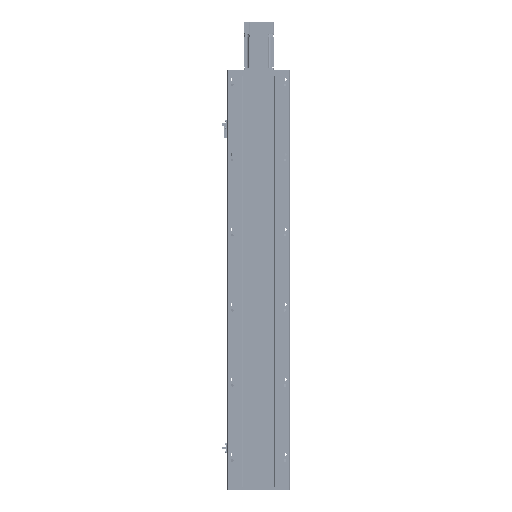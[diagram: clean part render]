
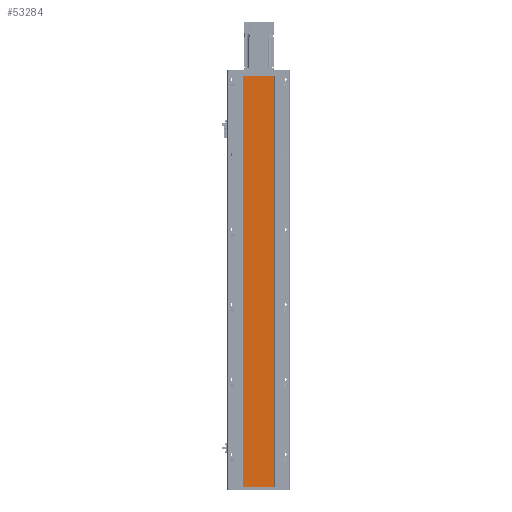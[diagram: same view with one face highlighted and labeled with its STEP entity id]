
A CAD part, front view. The second image highlights one B-rep face of the part: STEP entity #53284.
In plain terms, the highlighted planar face has unit normal (0, -1, 0).
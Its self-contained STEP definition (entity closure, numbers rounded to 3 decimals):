
#96 = CARTESIAN_POINT ( 'NONE',  ( -42., 0., 0. ) ) ;
#691 = VECTOR ( 'NONE', #18968, 1000. ) ;
#4380 = AXIS2_PLACEMENT_3D ( 'NONE', #58365, #25537, #83243 ) ;
#4404 = ORIENTED_EDGE ( 'NONE', *, *, #18937, .T. ) ;
#15970 = DIRECTION ( 'NONE',  ( 1., 0., 0. ) ) ;
#17942 = VERTEX_POINT ( 'NONE', #96 ) ;
#18626 = VECTOR ( 'NONE', #24147, 1000. ) ;
#18937 = EDGE_CURVE ( 'NONE', #68708, #59892, #62547, .T. ) ;
#18968 = DIRECTION ( 'NONE',  ( 0., 0., 1. ) ) ;
#24147 = DIRECTION ( 'NONE',  ( 1., 0., 0. ) ) ;
#25537 = DIRECTION ( 'NONE',  ( 0., -1., 0. ) ) ;
#27902 = EDGE_LOOP ( 'NONE', ( #72871, #85748, #4404, #34026 ) ) ;
#34026 = ORIENTED_EDGE ( 'NONE', *, *, #96005, .T. ) ;
#34623 = VERTEX_POINT ( 'NONE', #70965 ) ;
#36990 = VECTOR ( 'NONE', #15970, 1000. ) ;
#39588 = LINE ( 'NONE', #98183, #36990 ) ;
#42547 = FACE_OUTER_BOUND ( 'NONE', #27902, .T. ) ;
#50132 = PLANE ( 'NONE',  #4380 ) ;
#53284 = ADVANCED_FACE ( 'NONE', ( #42547 ), #50132, .T. ) ;
#55044 = CARTESIAN_POINT ( 'NONE',  ( 42., 0., -1095. ) ) ;
#58365 = CARTESIAN_POINT ( 'NONE',  ( -42., 0., -1095. ) ) ;
#59513 = VECTOR ( 'NONE', #63397, 1000. ) ;
#59892 = VERTEX_POINT ( 'NONE', #70037 ) ;
#61459 = EDGE_CURVE ( 'NONE', #68708, #17942, #66654, .T. ) ;
#62547 = LINE ( 'NONE', #65309, #18626 ) ;
#63397 = DIRECTION ( 'NONE',  ( 0., 0., 1. ) ) ;
#65309 = CARTESIAN_POINT ( 'NONE',  ( -42., 0., -1095. ) ) ;
#66654 = LINE ( 'NONE', #68407, #691 ) ;
#68407 = CARTESIAN_POINT ( 'NONE',  ( -42., 0., -1095. ) ) ;
#68708 = VERTEX_POINT ( 'NONE', #93850 ) ;
#70037 = CARTESIAN_POINT ( 'NONE',  ( 42., 0., -1095. ) ) ;
#70965 = CARTESIAN_POINT ( 'NONE',  ( 42., 0., 0. ) ) ;
#72871 = ORIENTED_EDGE ( 'NONE', *, *, #73102, .F. ) ;
#73102 = EDGE_CURVE ( 'NONE', #17942, #34623, #39588, .T. ) ;
#83243 = DIRECTION ( 'NONE',  ( 0., 0., -1. ) ) ;
#85748 = ORIENTED_EDGE ( 'NONE', *, *, #61459, .F. ) ;
#93850 = CARTESIAN_POINT ( 'NONE',  ( -42., 0., -1095. ) ) ;
#96005 = EDGE_CURVE ( 'NONE', #59892, #34623, #103335, .T. ) ;
#98183 = CARTESIAN_POINT ( 'NONE',  ( -42., 0., 0. ) ) ;
#103335 = LINE ( 'NONE', #55044, #59513 ) ;
